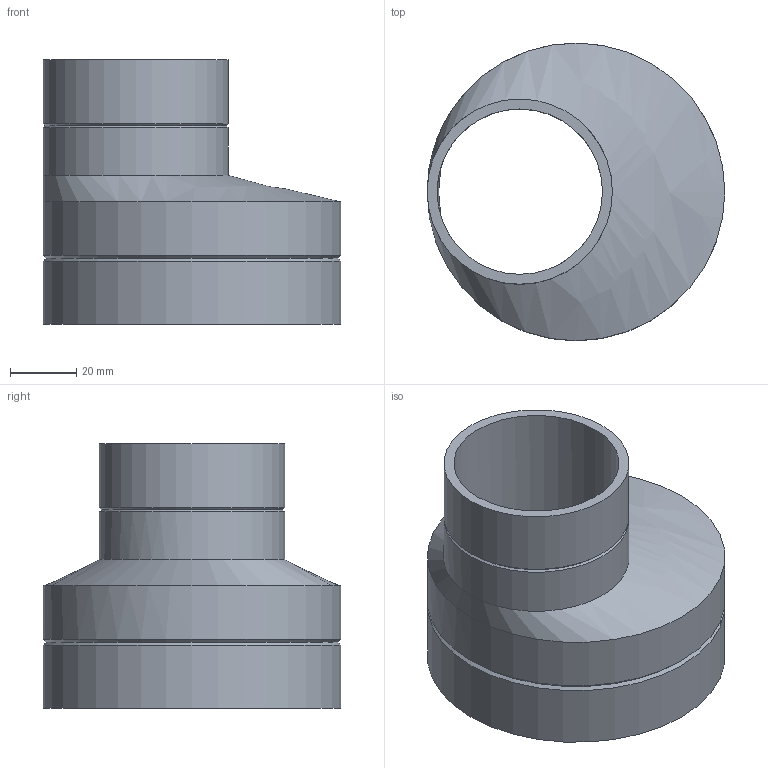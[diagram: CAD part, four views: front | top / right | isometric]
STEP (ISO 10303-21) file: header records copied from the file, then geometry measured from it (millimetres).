
FILE_DESCRIPTION(/* description */ (''),/* implementation_level */ '2;1');
FILE_NAME(/* name */ 'Z:\Geberit\Export\NewStep\366566.stp',/* time_stamp */ '2014-04-02T07:54:27+02:00',/* author */ ('nelson'),/* organization */ (''),/* preprocessor_version */ 'ST-DEVELOPER v15.2',/* originating_system */ 'Autodesk Inventor 2014',/* authorisation */ '');
FILE_SCHEMA (('AUTOMOTIVE_DESIGN { 1 0 10303 214 3 1 1 }'));
Length unit declared in the file: millimetre
Products named in the file (1): 366566
Bounding box: 90 x 90 x 80 mm (x, y, z)
Volume: 58128.5 mm3; surface area: 42164.6 mm2
Topology: 1 solids, 1 shells, 14 faces, 38 edges, 26 vertices
Faces by surface type: cylinder 6, cone 4, bspline 2, plane 2
Full cylindrical faces by diameter (mm): 50 x1, 56 x2, 83 x1, 90 x2
Entity records: 417 total; most frequent: CARTESIAN_POINT 93, DIRECTION 66, ORIENTED_EDGE 44, AXIS2_PLACEMENT_3D 33, EDGE_LOOP 26, EDGE_CURVE 22, CIRCLE 20, VERTEX_POINT 20
